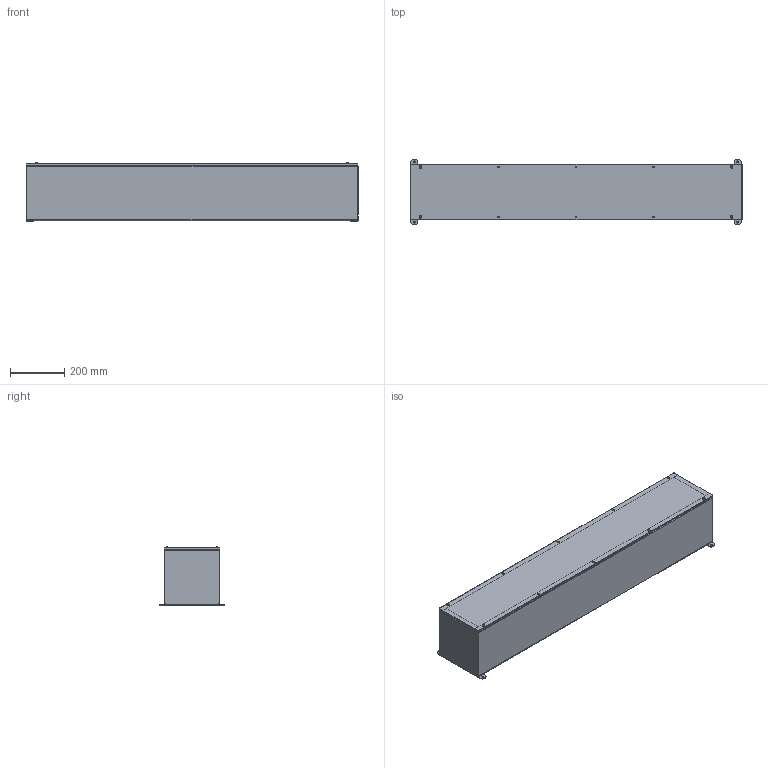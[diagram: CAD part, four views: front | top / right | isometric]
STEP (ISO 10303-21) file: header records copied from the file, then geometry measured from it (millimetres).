
FILE_DESCRIPTION (( 'STEP AP203' ), '1' );
FILE_NAME ('f8848scss.STEP', '2016-02-22T21:42:38', ( '' ), ( '' ), 'SwSTEP 2.0', 'SolidWorks 2014', '' );
FILE_SCHEMA (( 'CONFIG_CONTROL_DESIGN' ));
Length unit declared in the file: inch
Products named in the file (12): 89127749; 89128171; 89127769; f8848scss; 89127760; 14241008; 87789569_DEFAULT; 58110002; 89127726; 89127666; 89127741; 89127806
Assembly tree (30 placements, depth 3):
  f8848scss
    89127760
      89127741
      89127749  x2
      89127769  x2
    14241008  x4
    87789569_DEFAULT  x4
    58110002  x10
    89128171
      89127726
      89127666  x2
      89127806  x2
Bounding box: 1219.2 x 241.3 x 214.87 mm (x, y, z)
Volume: 2207428.9 mm3; surface area: 2381741.8 mm2
Topology: 28 solids, 28 shells, 644 faces, 1536 edges, 970 vertices
Faces by surface type: plane 332, cylinder 176, cone 48, sphere 40, torus 36, bspline 12
Entity records: 11960 total; most frequent: CARTESIAN_POINT 2078, DIRECTION 1704, ORIENTED_EDGE 1632, EDGE_CURVE 816, AXIS2_PLACEMENT_3D 579, LINE 546, VECTOR 546, VERTEX_POINT 529
